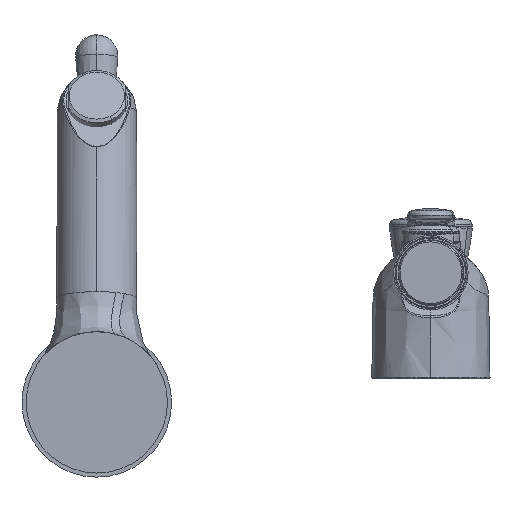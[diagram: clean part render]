
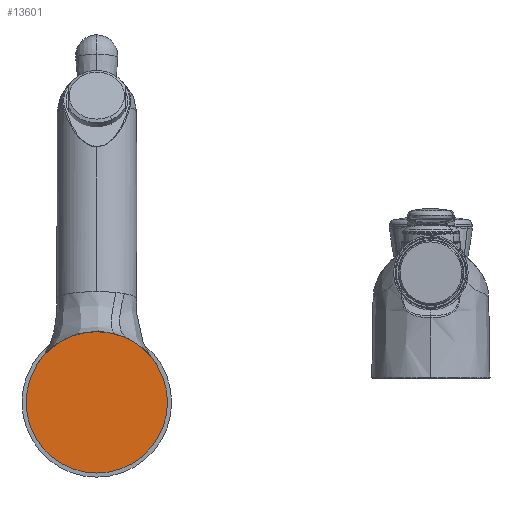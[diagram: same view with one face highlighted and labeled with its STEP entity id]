
A CAD part, front view. The second image highlights one B-rep face of the part: STEP entity #13601.
In plain terms, the highlighted planar face has unit normal (0, -1, 0).
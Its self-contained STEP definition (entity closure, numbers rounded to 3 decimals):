
#872 = DIRECTION ( 'NONE',  ( 0., 0., 1. ) ) ;
#1024 = DIRECTION ( 'NONE',  ( 0., 1., 0. ) ) ;
#2408 = DIRECTION ( 'NONE',  ( 0., 0., 1. ) ) ;
#6916 = FACE_OUTER_BOUND ( 'NONE', #13859, .T. ) ;
#8738 = CARTESIAN_POINT ( 'NONE',  ( 77.771, 315.689, 465.84 ) ) ;
#13601 = ADVANCED_FACE ( 'NONE', ( #6916 ), #46012, .F. ) ;
#13859 = EDGE_LOOP ( 'NONE', ( #39375, #45019 ) ) ;
#17198 = EDGE_CURVE ( 'NONE', #46299, #20156, #26247, .T. ) ;
#20156 = VERTEX_POINT ( 'NONE', #8738 ) ;
#23412 = DIRECTION ( 'NONE',  ( 0., 1., 0. ) ) ;
#23560 = CARTESIAN_POINT ( 'NONE',  ( 77.771, 315.689, 410.84 ) ) ;
#24955 = DIRECTION ( 'NONE',  ( 0., 1., 0. ) ) ;
#25769 = EDGE_CURVE ( 'NONE', #20156, #46299, #38468, .T. ) ;
#26247 = CIRCLE ( 'NONE', #48367, 27.5 ) ;
#26269 = AXIS2_PLACEMENT_3D ( 'NONE', #46023, #23412, #872 ) ;
#27347 = DIRECTION ( 'NONE',  ( 0., 0., 1. ) ) ;
#32937 = CARTESIAN_POINT ( 'NONE',  ( 77.771, 315.689, 410.84 ) ) ;
#38468 = CIRCLE ( 'NONE', #26269, 27.5 ) ;
#39375 = ORIENTED_EDGE ( 'NONE', *, *, #25769, .F. ) ;
#45019 = ORIENTED_EDGE ( 'NONE', *, *, #17198, .F. ) ;
#46012 = PLANE ( 'NONE',  #48021 ) ;
#46023 = CARTESIAN_POINT ( 'NONE',  ( 77.771, 315.689, 438.34 ) ) ;
#46299 = VERTEX_POINT ( 'NONE', #32937 ) ;
#47555 = CARTESIAN_POINT ( 'NONE',  ( 77.771, 315.689, 438.34 ) ) ;
#48021 = AXIS2_PLACEMENT_3D ( 'NONE', #23560, #1024, #27347 ) ;
#48367 = AXIS2_PLACEMENT_3D ( 'NONE', #47555, #24955, #2408 ) ;
